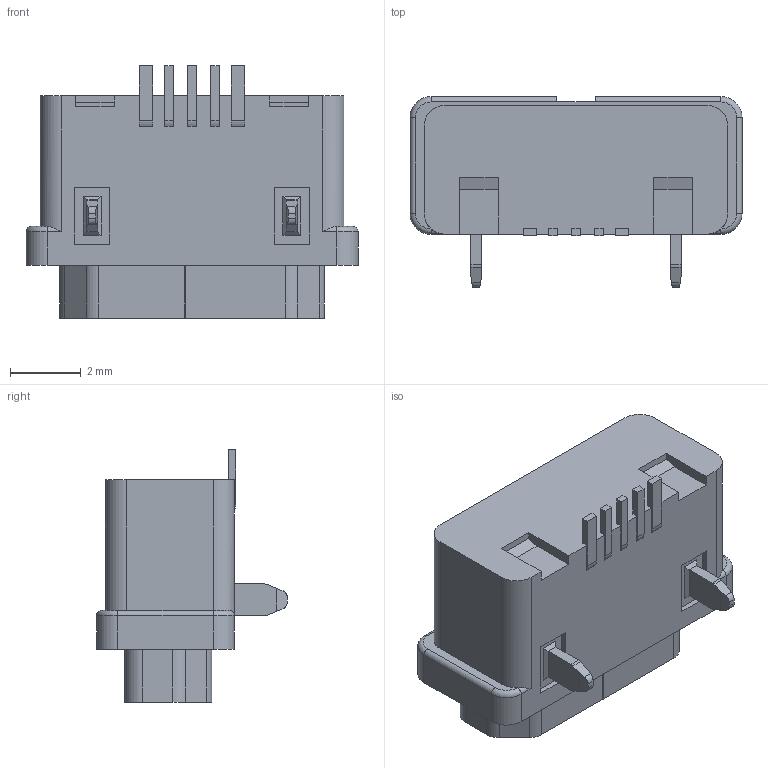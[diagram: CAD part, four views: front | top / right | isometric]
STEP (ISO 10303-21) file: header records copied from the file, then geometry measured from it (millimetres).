
FILE_DESCRIPTION((''),'2;1');
FILE_NAME('1030562AR001_WATERPROOF-MICRO','2019-07-21T',('Administrator'),(''),'PRO/ENGINEER BY PARAMETRIC TECHNOLOGY CORPORATION, 2010280','PRO/ENGINEER BY PARAMETRIC TECHNOLOGY CORPORATION, 2010280','');
FILE_SCHEMA(('CONFIG_CONTROL_DESIGN'));
Length unit declared in the file: millimetre
Products named in the file (1): 1030562AR001_WATERPROOF-MICRO
Bounding box: 9.4 x 5.4 x 7.15 mm (x, y, z)
Volume: 130.7 mm3; surface area: 330.5 mm2
Topology: 1 solids, 1 shells, 382 faces, 1011 edges, 656 vertices
Faces by surface type: plane 308, cylinder 58, cone 8, torus 4, bspline 4
Entity records: 11765 total; most frequent: CARTESIAN_POINT 2213, ORIENTED_EDGE 2022, DIRECTION 1861, EDGE_CURVE 1011, VECTOR 873, LINE 873, VERTEX_POINT 656, AXIS2_PLACEMENT_3D 494
